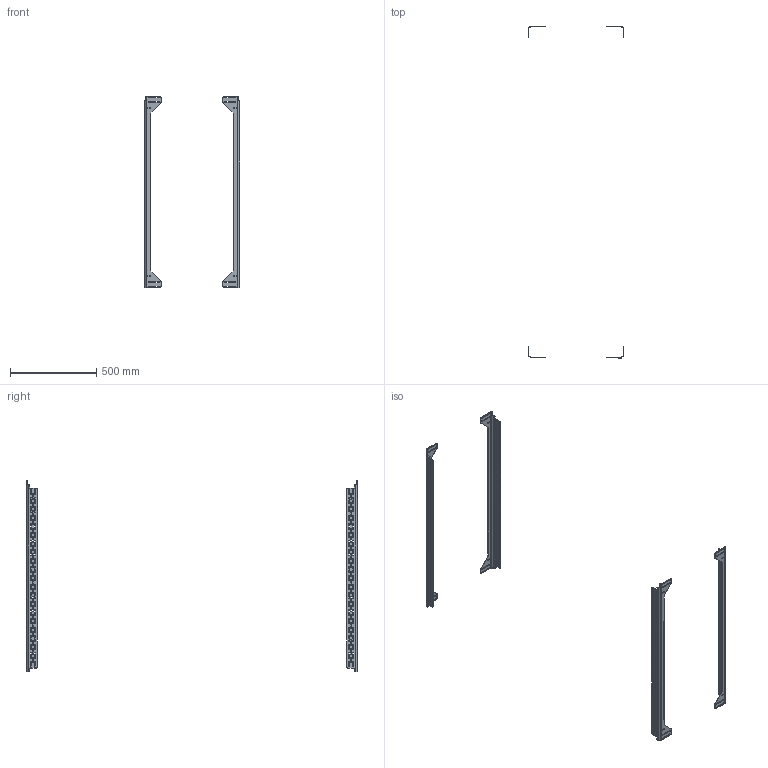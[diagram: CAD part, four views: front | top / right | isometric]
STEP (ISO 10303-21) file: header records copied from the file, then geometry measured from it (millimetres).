
FILE_DESCRIPTION (( 'STEP AP203' ), '1' );
FILE_NAME ('pbara12b.STEP', '2009-06-04T18:03:02', ( 'Hoffman User' ), ( 'Hoffman Enclosures' ), 'SwSTEP 2.0', 'SolidWorks 2007', '' );
FILE_SCHEMA (( 'CONFIG_CONTROL_DESIGN' ));
Length unit declared in the file: inch
Products named in the file (3): 87950975; 87950978; pbara12b
Assembly tree (4 placements, depth 2):
  pbara12b
    87950975  x2
    87950978  x2
Bounding box: 553.24 x 1925.99 x 1111 mm (x, y, z)
Volume: 913990.1 mm3; surface area: 819991.9 mm2
Topology: 4 solids, 4 shells, 1276 faces, 3740 edges, 2472 vertices
Faces by surface type: plane 1152, cylinder 124
Entity records: 21721 total; most frequent: CARTESIAN_POINT 3751, ORIENTED_EDGE 3740, DIRECTION 3284, EDGE_CURVE 1870, VECTOR 1746, LINE 1746, VERTEX_POINT 1236, EDGE_LOOP 910
